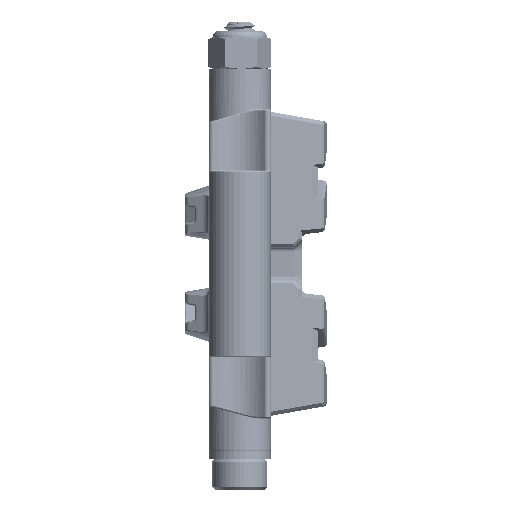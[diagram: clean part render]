
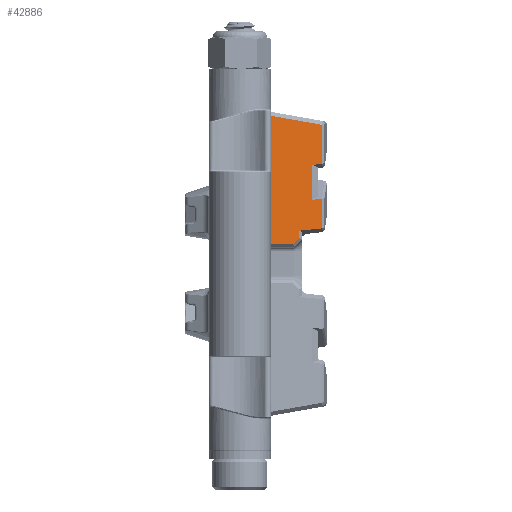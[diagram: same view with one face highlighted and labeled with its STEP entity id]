
A CAD part, left-side view. The second image highlights one B-rep face of the part: STEP entity #42886.
In plain terms, the highlighted planar face has unit normal (-0.985, -0.174, 0).
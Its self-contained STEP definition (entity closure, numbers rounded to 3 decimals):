
#772 = DIRECTION ( 'NONE',  ( 0., 0., 1. ) ) ;
#1530 = EDGE_CURVE ( 'NONE', #55723, #119211, #109623, .T. ) ;
#1974 = ORIENTED_EDGE ( 'NONE', *, *, #1530, .T. ) ;
#2202 = VERTEX_POINT ( 'NONE', #42514 ) ;
#7414 = VERTEX_POINT ( 'NONE', #77553 ) ;
#7923 = EDGE_CURVE ( 'NONE', #92404, #141441, #55980, .T. ) ;
#8458 = ORIENTED_EDGE ( 'NONE', *, *, #171167, .F. ) ;
#12255 = VERTEX_POINT ( 'NONE', #170008 ) ;
#12448 = CARTESIAN_POINT ( 'NONE',  ( 5.923, 14.881, 58.046 ) ) ;
#14332 = CARTESIAN_POINT ( 'NONE',  ( 5.922, 14.886, 50.852 ) ) ;
#15039 = ORIENTED_EDGE ( 'NONE', *, *, #157135, .T. ) ;
#15692 = PLANE ( 'NONE',  #26238 ) ;
#17929 = VECTOR ( 'NONE', #30682, 1000. ) ;
#19018 = ORIENTED_EDGE ( 'NONE', *, *, #7923, .T. ) ;
#19977 = CARTESIAN_POINT ( 'NONE',  ( 5.923, 14.881, 55.865 ) ) ;
#20774 = ORIENTED_EDGE ( 'NONE', *, *, #89984, .T. ) ;
#26238 = AXIS2_PLACEMENT_3D ( 'NONE', #40669, #52853, #172696 ) ;
#27332 = VECTOR ( 'NONE', #163493, 1000. ) ;
#28122 = VECTOR ( 'NONE', #149983, 1000. ) ;
#29329 = LINE ( 'NONE', #70527, #27332 ) ;
#30682 = DIRECTION ( 'NONE',  ( 0., 0., 1. ) ) ;
#31719 = EDGE_CURVE ( 'NONE', #133286, #135288, #29329, .T. ) ;
#32633 = VECTOR ( 'NONE', #38679, 1000. ) ;
#34563 = CARTESIAN_POINT ( 'NONE',  ( 5.922, 14.886, 42.588 ) ) ;
#36392 = LINE ( 'NONE', #121630, #28122 ) ;
#37598 = LINE ( 'NONE', #12448, #85650 ) ;
#38679 = DIRECTION ( 'NONE',  ( -0.171, 0.97, 0.171 ) ) ;
#40375 = DIRECTION ( 'NONE',  ( 0., 0., 1. ) ) ;
#40669 = CARTESIAN_POINT ( 'NONE',  ( 4.765, 21.448, 76.092 ) ) ;
#42472 = CARTESIAN_POINT ( 'NONE',  ( 5.401, 17.842, 41.313 ) ) ;
#42514 = CARTESIAN_POINT ( 'NONE',  ( 5.695, 16.177, 50.721 ) ) ;
#42886 = ADVANCED_FACE ( 'NONE', ( #122351 ), #15692, .F. ) ;
#44519 = LINE ( 'NONE', #95915, #158983 ) ;
#46279 = LINE ( 'NONE', #111229, #90125 ) ;
#49169 = ORIENTED_EDGE ( 'NONE', *, *, #71350, .T. ) ;
#50660 = ORIENTED_EDGE ( 'NONE', *, *, #131186, .T. ) ;
#50932 = CARTESIAN_POINT ( 'NONE',  ( 5.266, 18.61, 40.546 ) ) ;
#52176 = ORIENTED_EDGE ( 'NONE', *, *, #31719, .T. ) ;
#52853 = DIRECTION ( 'NONE',  ( 0.985, 0.174, 0. ) ) ;
#53061 = CARTESIAN_POINT ( 'NONE',  ( 5.923, 14.881, 50.858 ) ) ;
#53069 = CARTESIAN_POINT ( 'NONE',  ( 3.977, 25.917, 45.26 ) ) ;
#53635 = CARTESIAN_POINT ( 'NONE',  ( 4.765, 21.448, 40.546 ) ) ;
#54361 = VECTOR ( 'NONE', #134466, 1000. ) ;
#55514 = EDGE_CURVE ( 'NONE', #12255, #2202, #63901, .T. ) ;
#55723 = VERTEX_POINT ( 'NONE', #19977 ) ;
#55980 = LINE ( 'NONE', #117449, #116492 ) ;
#58798 = DIRECTION ( 'NONE',  ( 0.174, -0.985, 0. ) ) ;
#63901 = LINE ( 'NONE', #95181, #82699 ) ;
#63941 = EDGE_CURVE ( 'NONE', #71266, #55723, #115769, .T. ) ;
#63979 = ORIENTED_EDGE ( 'NONE', *, *, #63941, .T. ) ;
#70478 = VECTOR ( 'NONE', #81587, 1000. ) ;
#70527 = CARTESIAN_POINT ( 'NONE',  ( 5.923, 14.883, 42.591 ) ) ;
#71266 = VERTEX_POINT ( 'NONE', #53061 ) ;
#71350 = EDGE_CURVE ( 'NONE', #135288, #92404, #37598, .T. ) ;
#73353 = CARTESIAN_POINT ( 'NONE',  ( 4.765, 21.448, 57.023 ) ) ;
#77553 = CARTESIAN_POINT ( 'NONE',  ( 5.401, 17.842, 42.287 ) ) ;
#78157 = CARTESIAN_POINT ( 'NONE',  ( 5.146, 19.291, 42.14 ) ) ;
#81587 = DIRECTION ( 'NONE',  ( 0., 0., 1. ) ) ;
#82699 = VECTOR ( 'NONE', #40375, 1000. ) ;
#84724 = VECTOR ( 'NONE', #96956, 1000. ) ;
#85650 = VECTOR ( 'NONE', #772, 1000. ) ;
#86568 = ORIENTED_EDGE ( 'NONE', *, *, #102607, .T. ) ;
#89698 = EDGE_LOOP ( 'NONE', ( #50660, #170719, #136861, #86568, #52176, #49169, #19018, #147530, #96903, #20774, #15039, #63979, #1974, #8458 ) ) ;
#89984 = EDGE_CURVE ( 'NONE', #2202, #145769, #107555, .T. ) ;
#90125 = VECTOR ( 'NONE', #58798, 1000. ) ;
#92251 = DIRECTION ( 'NONE',  ( 0.173, -0.98, 0.1 ) ) ;
#92404 = VERTEX_POINT ( 'NONE', #129103 ) ;
#95181 = CARTESIAN_POINT ( 'NONE',  ( 5.695, 16.177, 0. ) ) ;
#95915 = CARTESIAN_POINT ( 'NONE',  ( 6.674, 10.621, 48.535 ) ) ;
#96903 = ORIENTED_EDGE ( 'NONE', *, *, #55514, .T. ) ;
#96956 = DIRECTION ( 'NONE',  ( 0.173, -0.98, 0.1 ) ) ;
#98109 = LINE ( 'NONE', #53069, #164566 ) ;
#99885 = EDGE_CURVE ( 'NONE', #153973, #138502, #44519, .T. ) ;
#102607 = EDGE_CURVE ( 'NONE', #7414, #133286, #112715, .T. ) ;
#105868 = LINE ( 'NONE', #109460, #70478 ) ;
#107555 = LINE ( 'NONE', #123645, #84724 ) ;
#109224 = DIRECTION ( 'NONE',  ( 0.124, -0.702, 0.702 ) ) ;
#109460 = CARTESIAN_POINT ( 'NONE',  ( 4.765, 21.448, 76.092 ) ) ;
#109623 = LINE ( 'NONE', #156736, #32633 ) ;
#110082 = CARTESIAN_POINT ( 'NONE',  ( 5.923, 14.883, 50.855 ) ) ;
#111229 = CARTESIAN_POINT ( 'NONE',  ( 5.548, 17.006, 40.546 ) ) ;
#111540 = CARTESIAN_POINT ( 'NONE',  ( 5.923, 14.881, 58.046 ) ) ;
#112715 = LINE ( 'NONE', #78157, #54361 ) ;
#113009 = EDGE_CURVE ( 'NONE', #12255, #141441, #98109, .T. ) ;
#115723 = VECTOR ( 'NONE', #123462, 1000. ) ;
#115769 = LINE ( 'NONE', #111540, #17929 ) ;
#116492 = VECTOR ( 'NONE', #145255, 1000. ) ;
#117449 = CARTESIAN_POINT ( 'NONE',  ( 5.922, 14.887, 46.377 ) ) ;
#119211 = VERTEX_POINT ( 'NONE', #73353 ) ;
#121630 = CARTESIAN_POINT ( 'NONE',  ( 5.401, 17.842, 47.069 ) ) ;
#122351 = FACE_OUTER_BOUND ( 'NONE', #89698, .T. ) ;
#123462 = DIRECTION ( 'NONE',  ( 0.11, -0.626, 0.772 ) ) ;
#123645 = CARTESIAN_POINT ( 'NONE',  ( 4.993, 20.157, 50.316 ) ) ;
#126227 = LINE ( 'NONE', #110082, #115723 ) ;
#129103 = CARTESIAN_POINT ( 'NONE',  ( 5.923, 14.881, 46.372 ) ) ;
#131186 = EDGE_CURVE ( 'NONE', #153187, #153973, #46279, .T. ) ;
#132681 = CARTESIAN_POINT ( 'NONE',  ( 5.921, 14.892, 46.383 ) ) ;
#133286 = VERTEX_POINT ( 'NONE', #34563 ) ;
#134466 = DIRECTION ( 'NONE',  ( 0.173, -0.98, 0.1 ) ) ;
#135288 = VERTEX_POINT ( 'NONE', #167529 ) ;
#136861 = ORIENTED_EDGE ( 'NONE', *, *, #139875, .T. ) ;
#138502 = VERTEX_POINT ( 'NONE', #42472 ) ;
#139875 = EDGE_CURVE ( 'NONE', #138502, #7414, #36392, .T. ) ;
#141441 = VERTEX_POINT ( 'NONE', #132681 ) ;
#145255 = DIRECTION ( 'NONE',  ( -0.123, 0.695, 0.709 ) ) ;
#145769 = VERTEX_POINT ( 'NONE', #14332 ) ;
#147530 = ORIENTED_EDGE ( 'NONE', *, *, #113009, .F. ) ;
#149983 = DIRECTION ( 'NONE',  ( 0., 0., 1. ) ) ;
#153187 = VERTEX_POINT ( 'NONE', #53635 ) ;
#153973 = VERTEX_POINT ( 'NONE', #50932 ) ;
#156736 = CARTESIAN_POINT ( 'NONE',  ( 5.91, 14.954, 55.878 ) ) ;
#157135 = EDGE_CURVE ( 'NONE', #145769, #71266, #126227, .T. ) ;
#158983 = VECTOR ( 'NONE', #109224, 1000. ) ;
#163493 = DIRECTION ( 'NONE',  ( 0.11, -0.626, 0.772 ) ) ;
#164566 = VECTOR ( 'NONE', #92251, 1000. ) ;
#167529 = CARTESIAN_POINT ( 'NONE',  ( 5.923, 14.881, 42.594 ) ) ;
#170008 = CARTESIAN_POINT ( 'NONE',  ( 5.695, 16.177, 46.252 ) ) ;
#170719 = ORIENTED_EDGE ( 'NONE', *, *, #99885, .T. ) ;
#171167 = EDGE_CURVE ( 'NONE', #153187, #119211, #105868, .T. ) ;
#172696 = DIRECTION ( 'NONE',  ( 0.174, -0.985, 0. ) ) ;
